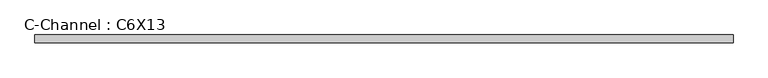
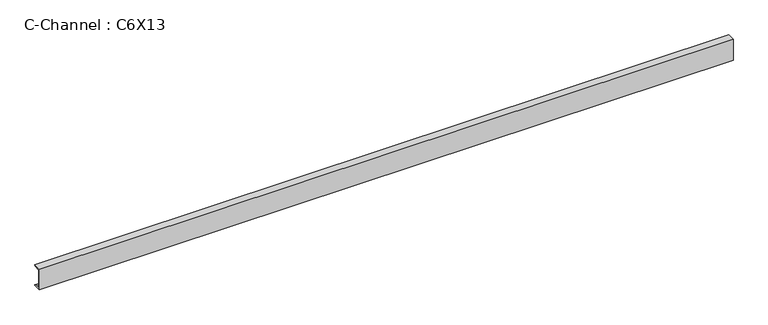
"""IFC4 building model written with IfcOpenShell, lengths in millimetres: beam geometry, C-Channel : C6X13."""

from ifc_helpers import new_model, si_unit, point, frame, frame_2d, origin, place, context, project, spatial, polyline, circle_curve, trimmed, segment, composite_curve, outline, extrude, source, transform, mapped, element, save


def c_channel_c6x13_ee0d21b7(model_context):
    return source(origin(), model_context, "Body", "SweptSolid", [
        extrude(outline(composite_curve([segment(polyline([(-13.0556, 76.2), (41.8084, 76.2)]), True, "CONTINUOUS"), segment(trimmed(circle_curve(frame_2d((33.0962, 76.2)), 8.7122), [point((41.8084, 76.2))], [point((33.0962, 67.4878))], False, "CARTESIAN"), True, "CONTINUOUS"), segment(polyline([(33.0962, 67.4878), (-1.9558, 61.9361086), (-1.9558, -61.9361086), (33.0962, -67.4878)]), True, "CONTINUOUS"), segment(trimmed(circle_curve(frame_2d((33.0962, -76.2)), 8.7122), [point((33.0962, -67.4878))], [point((41.8084, -76.2))], False, "CARTESIAN"), True, "CONTINUOUS"), segment(polyline([(41.8084, -76.2), (-13.0556, -76.2), (-13.0556, 76.2)]), True, "CONTINUOUS")], self_intersect=False)), frame((-2397.4979954, 0.0, 0.0), z_axis=(1.0, 0.0, 0.0), x_axis=(0.0, 1.0, 0.0)), (0.0, 0.0, 1.0), 4813.1686466),
    ])


if __name__ == "__main__":
    model = new_model("IFC4")
    model_context = context("Model", 3, world=origin())
    ifc_project = project(units=[si_unit("LENGTHUNIT", "METRE", prefix="MILLI")], contexts=[model_context])
    site = spatial("IfcSite", under=ifc_project)
    building = spatial("IfcBuilding", under=site)
    placement = place(None, origin())
    c_channel_c6x13_shape = c_channel_c6x13_ee0d21b7(model_context)
    element("IfcBeam", 1, ObjectType="C-Channel : C6X13", at=placement, inside=building, context=model_context, shape_type="MappedRepresentation", body=[
        mapped(c_channel_c6x13_shape, transform((0.0, 0.0, 0.0), x_axis=(1.0, 0.0, 0.0), y_axis=(0.0, 1.0, 0.0), z_axis=(0.0, 0.0, 1.0))),
    ])
    save(model, "model.ifc")
